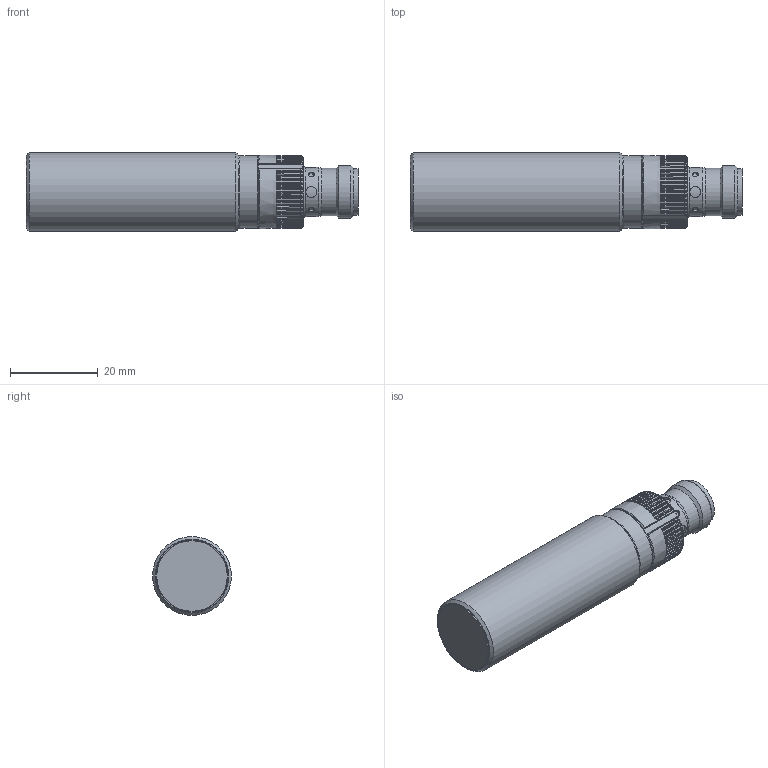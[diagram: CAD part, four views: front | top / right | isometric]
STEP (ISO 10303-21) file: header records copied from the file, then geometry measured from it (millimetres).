
FILE_DESCRIPTION(/* description */ ('STEP AP203'),/* implementation_level */ '2;1');
FILE_NAME(/* name */ 'P_MZ_E200_0126',/* time_stamp */ '2023-04-13T10:06:53+02:00',/* author */ ('License CC BY-ND 4.0'),/* organization */ ('CADENAS'),/* preprocessor_version */ 'ST-DEVELOPER v19.3',/* originating_system */ 'PARTsolutions',/* authorisation */ ' ');
FILE_SCHEMA (('CONFIG_CONTROL_DESIGN','AP203_CONFIGURATION_CONTROLLED_3D_DESIGN_OF_MECHANICAL_PARTS_AND_ASSEMBLIES_MIM_LF { 1 0 10303 203 3 1 4 }'));
Length unit declared in the file: millimetre
Products named in the file (1): P_MZ_E200_0126
Bounding box: 75.71 x 18 x 18 mm (x, y, z)
Volume: 16225.1 mm3; surface area: 4764.4 mm2
Topology: 1 solids, 1 shells, 447 faces, 1277 edges, 848 vertices
Faces by surface type: cylinder 219, plane 209, cone 9, torus 6, sphere 4
Full cylindrical faces by diameter (mm): 2.5 x4, 8.3 x1, 10.6 x1, 10.8 x1, 11.3 x1, 11.9 x1, 12 x1, 14.6 x1, 14.85 x1, 16.07 x1, 16.345 x1, 16.37 x1, 16.55 x1, 18 x1
Entity records: 18058 total; most frequent: CARTESIAN_POINT 4003, ORIENTED_EDGE 2468, DIRECTION 2006, EDGE_CURVE 1234, VERTEX_POINT 839, AXIS2_PLACEMENT_3D 780, EDGE_LOOP 497, FACE_BOUND 497
